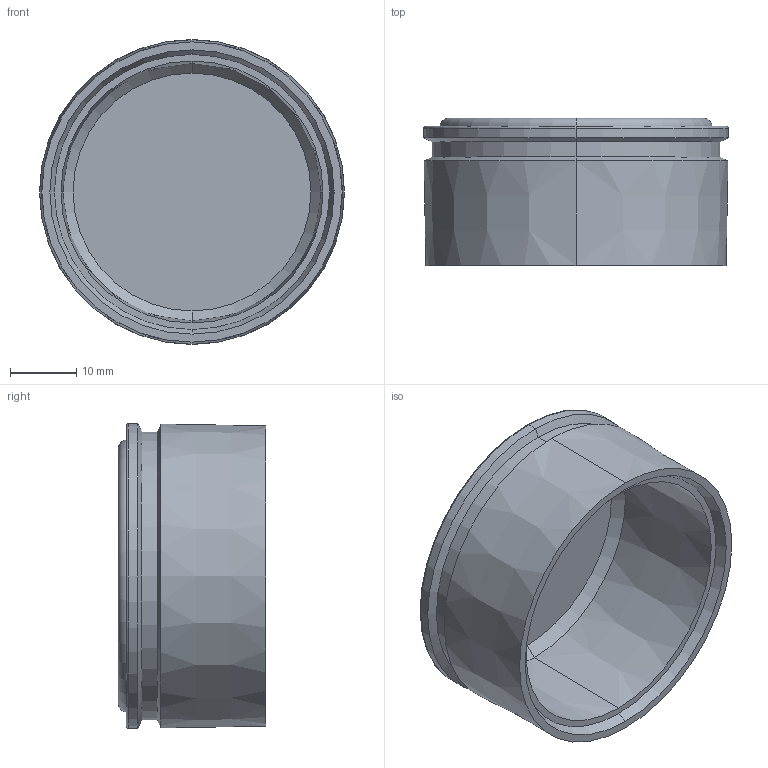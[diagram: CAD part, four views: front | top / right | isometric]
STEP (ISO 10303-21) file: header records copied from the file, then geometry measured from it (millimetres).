
FILE_DESCRIPTION (( 'STEP AP203' ), '1' );
FILE_NAME ('plc-pg-42-00.00.004 Óïëîòíèòåëü (PG42) #sealant (PG42)#.STEP', '2024-04-24T10:40:19', ( '' ), ( '' ), 'SwSTEP 2.0', 'SolidWorks 2021', '' );
FILE_SCHEMA (( 'CONFIG_CONTROL_DESIGN' ));
Length unit declared in the file: millimetre
Products named in the file (1): plc-pg-42-00.00.004 Óïëîòíèòåëü (PG42) #sealant (PG42)#
Bounding box: 45.99 x 22.2 x 45.99 mm (x, y, z)
Volume: 9935.4 mm3; surface area: 8927.7 mm2
Topology: 1 solids, 1 shells, 25 faces, 48 edges, 28 vertices
Faces by surface type: cone 14, plane 5, torus 4, cylinder 2
Entity records: 715 total; most frequent: DIRECTION 132, CARTESIAN_POINT 102, ORIENTED_EDGE 96, AXIS2_PLACEMENT_3D 58, EDGE_CURVE 48, CIRCLE 32, VERTEX_POINT 28, EDGE_LOOP 28
